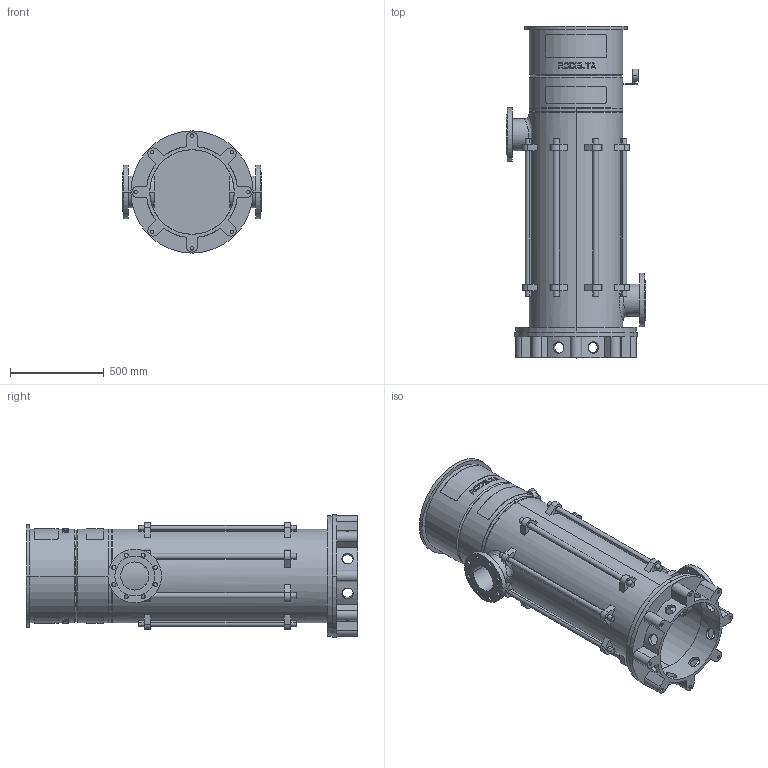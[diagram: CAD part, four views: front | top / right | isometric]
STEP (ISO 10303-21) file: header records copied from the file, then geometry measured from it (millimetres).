
FILE_DESCRIPTION((''),'2;1');
FILE_NAME('LS6_5TR_0GR_PN16_ABOVE_30KW','2025-10-23T15:39:02',('Lyritlocal'),(''),'CREO PARAMETRIC BY PTC INC, 2022014','CREO PARAMETRIC BY PTC INC, 2022014','');
FILE_SCHEMA(('CONFIG_CONTROL_DESIGN'));
Length unit declared in the file: millimetre
Products named in the file (1): LS6_5TR_0GR_PN16_ABOVE_30KW
Bounding box: 740 x 1765 x 650 mm (x, y, z)
Volume: 56775703.1 mm3; surface area: 7959214.9 mm2
Topology: 3 solids, 11 shells, 732 faces, 1889 edges, 1258 vertices
Faces by surface type: plane 438, cylinder 274, cone 12, bspline 8
Entity records: 24200 total; most frequent: CARTESIAN_POINT 6380, ORIENTED_EDGE 3746, DIRECTION 3535, EDGE_CURVE 1889, AXIS2_PLACEMENT_3D 1341, VERTEX_POINT 1258, EDGE_LOOP 895, VECTOR 853
